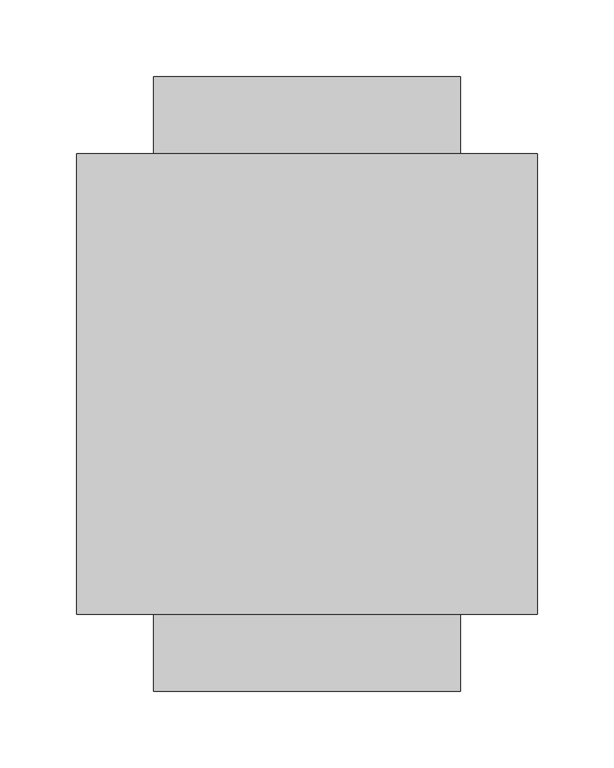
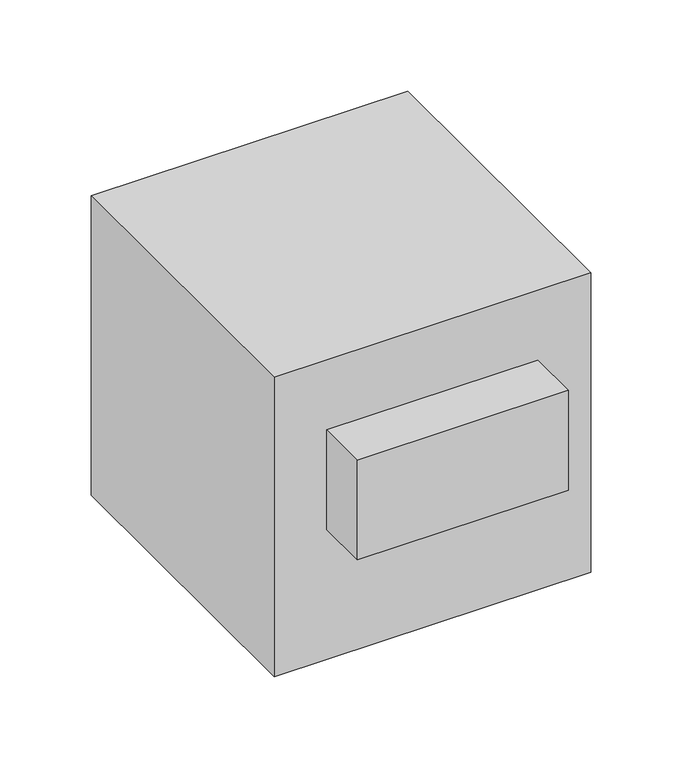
"""IFC4 building model written with IfcOpenShell, lengths in millimetres: duct fitting geometry, BL_КрестовинаВоздуховодов_Прямоугольная : BL_КрестовинаВоздуховодов_Прямоугольная."""

from ifc_helpers import new_model, si_unit, origin, place, context, project, spatial, faceted_brep, source, transform, mapped, element, save


def duct_fitting_1adb4846(model_context):
    return source(origin(), model_context, "Body", "Brep", [
        faceted_brep([(-150.0, 150.0, 150.0), (-150.0, 150.0, -150.0), (-150.0, -150.0, -150.0), (-150.0, -150.0, 150.0), (150.0, 150.0, 150.0), (150.0, 150.0, -150.0), (100.0, 150.0, -100.0), (100.0, 150.0, 100.0), (-100.0, 150.0, 100.0), (-100.0, 150.0, -100.0), (150.0, -150.0, -150.0), (150.0, -150.0, 150.0), (-100.0, -150.0, -20.0), (-100.0, -150.0, 80.0), (100.0, -150.0, 80.0), (100.0, -150.0, -20.0), (-100.0, -200.0, 80.0), (-100.0, -200.0, -20.0), (100.0, -200.0, -20.0), (100.0, -200.0, 80.0), (100.0, 200.0, 100.0), (100.0, 200.0, -100.0), (-100.0, 200.0, -100.0), (-100.0, 200.0, 100.0)], [[[0, 1, 2, 3]], [[1, 0, 4, 5], [6, 7, 8, 9]], [[2, 1, 5, 10]], [[3, 2, 10, 11], [12, 13, 14, 15]], [[0, 3, 11, 4]], [[4, 11, 10, 5]], [[16, 17, 18, 19]], [[17, 16, 13, 12]], [[18, 17, 12, 15]], [[19, 18, 15, 14]], [[20, 21, 22, 23]], [[21, 20, 7, 6]], [[22, 21, 6, 9]], [[23, 22, 9, 8]], [[16, 19, 14, 13]], [[20, 23, 8, 7]]]),
    ])


if __name__ == "__main__":
    model = new_model("IFC4")
    model_context = context("Model", 3, world=origin())
    ifc_project = project(units=[si_unit("LENGTHUNIT", "METRE", prefix="MILLI")], contexts=[model_context])
    site = spatial("IfcSite", under=ifc_project)
    building = spatial("IfcBuilding", under=site)
    placement = place(None, origin())
    duct_fitting_shape = duct_fitting_1adb4846(model_context)
    element("IfcDuctFitting", 1, ObjectType="BL_КрестовинаВоздуховодов_Прямоугольная : BL_КрестовинаВоздуховодов_Прямоугольная", at=placement, inside=building, context=model_context, shape_type="MappedRepresentation", body=[
        mapped(duct_fitting_shape, transform((0.0, 0.0, 0.0), x_axis=(1.0, 0.0, 0.0), y_axis=(0.0, 1.0, 0.0), z_axis=(0.0, 0.0, 1.0))),
    ])
    save(model, "model.ifc")
